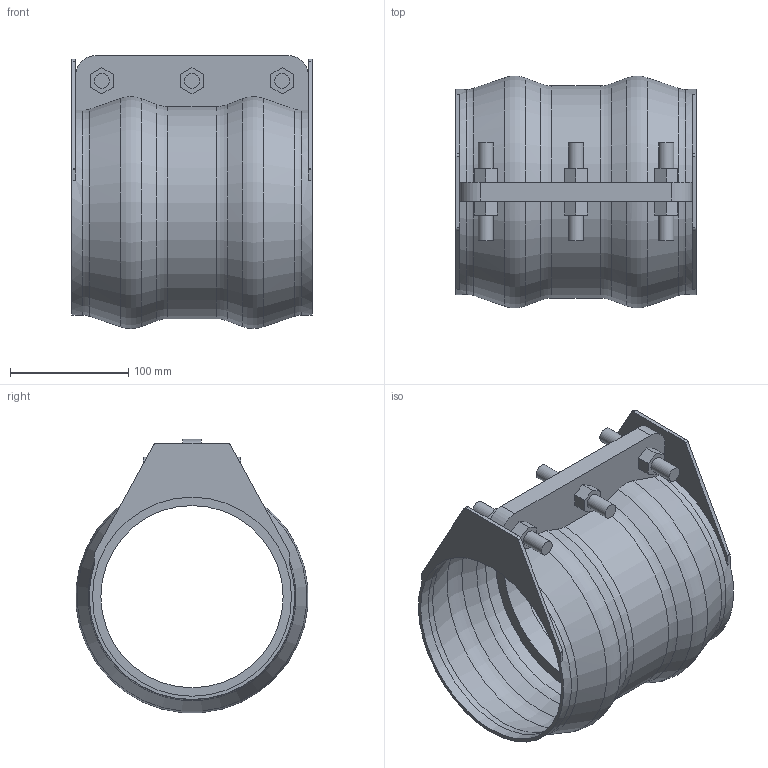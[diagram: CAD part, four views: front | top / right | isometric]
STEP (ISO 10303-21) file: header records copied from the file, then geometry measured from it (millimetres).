
FILE_DESCRIPTION(/* description */ ('VIC SS NON RESTRAINED COUPLING STYLE 229S (FLEX) (BEF)','CAx-IF Rec.Pracs.---Representation and Presentation of Product Manufacturing Information (PMI)---4.0---2014-10-13'),/* implementation_level */ '2;1');
FILE_NAME(/* name */ 'C:\Users\Vjadhav\Desktop\CAD for Inventor\1\229S\STEP\Victaulic_VBSP_Coupling Flexible Non-Restrained_Style 229S (BEF)\Victaulic_VBSP_Coupling Flexible Non-Restrained_Style 229S (BEF)_6 (150).stp',/* time_stamp */ '2021-08-26T18:16:48+06:00',/* author */ ('Vjadhav'),/* organization */ ('Victaulic'),/* preprocessor_version */ 'ST-DEVELOPER v17.2',/* originating_system */ 'Autodesk Inventor 2019',/* authorisation */ '');
FILE_SCHEMA (('AP242_MANAGED_MODEL_BASED_3D_ENGINEERING_MIM_LF { 1 0 10303 442 1 1 4 }'));
Length unit declared in the file: inch
Products named in the file (1): 229S-06.0
Bounding box: 203.2 x 195.99 x 230.94 mm (x, y, z)
Volume: 609796.8 mm3; surface area: 296800.3 mm2
Topology: 1 solids, 1 shells, 111 faces, 301 edges, 206 vertices
Faces by surface type: plane 67, cylinder 24, torus 12, cone 8
Full cylindrical faces by diameter (mm): 12.7 x6, 154.051 x1, 168.275 x2, 174.625 x2
Entity records: 3858 total; most frequent: CARTESIAN_POINT 732, DIRECTION 633, ORIENTED_EDGE 602, EDGE_CURVE 301, AXIS2_PLACEMENT_3D 227, VERTEX_POINT 206, LINE 179, VECTOR 179
